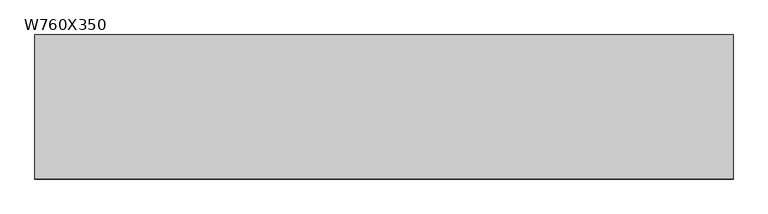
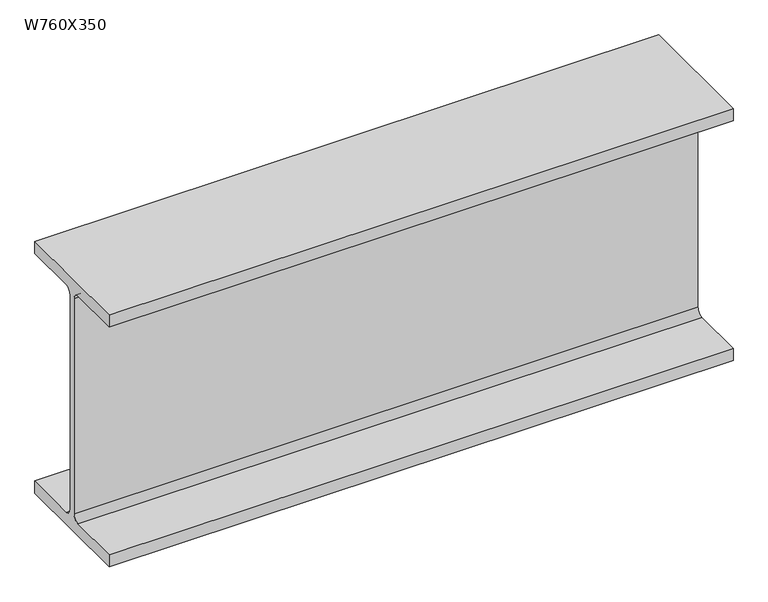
"""IFC4 building model written with IfcOpenShell, lengths in millimetres: beam geometry, M_W Shapes : W760X350."""

from ifc_helpers import new_model, si_unit, point, frame, frame_2d, origin, place, context, project, spatial, polyline, circle_curve, trimmed, segment, composite_curve, outline, extrude, source, transform, mapped, element, save


def w760x350_bd054468(model_context):
    return source(origin(), model_context, "Body", "SweptSolid", [
        extrude(outline(composite_curve([segment(polyline([(192.0, -359.4), (192.0, -397.5), (-192.0, -397.5), (-192.0, -359.4), (-30.65, -359.4)]), True, "CONTINUOUS"), segment(trimmed(circle_curve(frame_2d((-30.65, -339.3)), 20.1), [point((-30.65, -359.4))], [point((-10.55, -339.3))], True, "CARTESIAN"), True, "CONTINUOUS"), segment(polyline([(-10.55, -339.3), (-10.55, 339.3)]), True, "CONTINUOUS"), segment(trimmed(circle_curve(frame_2d((-30.65, 339.3)), 20.1), [point((-10.55, 339.3))], [point((-30.65, 359.4))], True, "CARTESIAN"), True, "CONTINUOUS"), segment(polyline([(-30.65, 359.4), (-192.0, 359.4), (-192.0, 397.5), (192.0, 397.5), (192.0, 359.4), (30.65, 359.4)]), True, "CONTINUOUS"), segment(trimmed(circle_curve(frame_2d((30.65, 339.3)), 20.1), [point((30.65, 359.4))], [point((10.55, 339.3))], True, "CARTESIAN"), True, "CONTINUOUS"), segment(polyline([(10.55, 339.3), (10.55, -339.3)]), True, "CONTINUOUS"), segment(trimmed(circle_curve(frame_2d((30.65, -339.3)), 20.1), [point((10.55, -339.3))], [point((30.65, -359.4))], True, "CARTESIAN"), True, "CONTINUOUS"), segment(polyline([(30.65, -359.4), (192.0, -359.4)]), True, "CONTINUOUS")], self_intersect=False)), frame((-852.95, 0.0, 0.0), z_axis=(1.0, 0.0, 0.0), x_axis=(0.0, 1.0, 0.0)), (0.0, 0.0, 1.0), 1861.2),
    ])


if __name__ == "__main__":
    model = new_model("IFC4")
    model_context = context("Model", 3, world=origin())
    ifc_project = project(units=[si_unit("LENGTHUNIT", "METRE", prefix="MILLI")], contexts=[model_context])
    site = spatial("IfcSite", under=ifc_project)
    building = spatial("IfcBuilding", under=site)
    placement = place(None, origin())
    w760x350_shape = w760x350_bd054468(model_context)
    element("IfcBeam", 1, ObjectType="M_W Shapes : W760X350", at=placement, inside=building, context=model_context, shape_type="MappedRepresentation", body=[
        mapped(w760x350_shape, transform((0.0, 0.0, 0.0), x_axis=(1.0, 0.0, 0.0), y_axis=(0.0, 1.0, 0.0), z_axis=(0.0, 0.0, 1.0))),
    ])
    save(model, "model.ifc")
